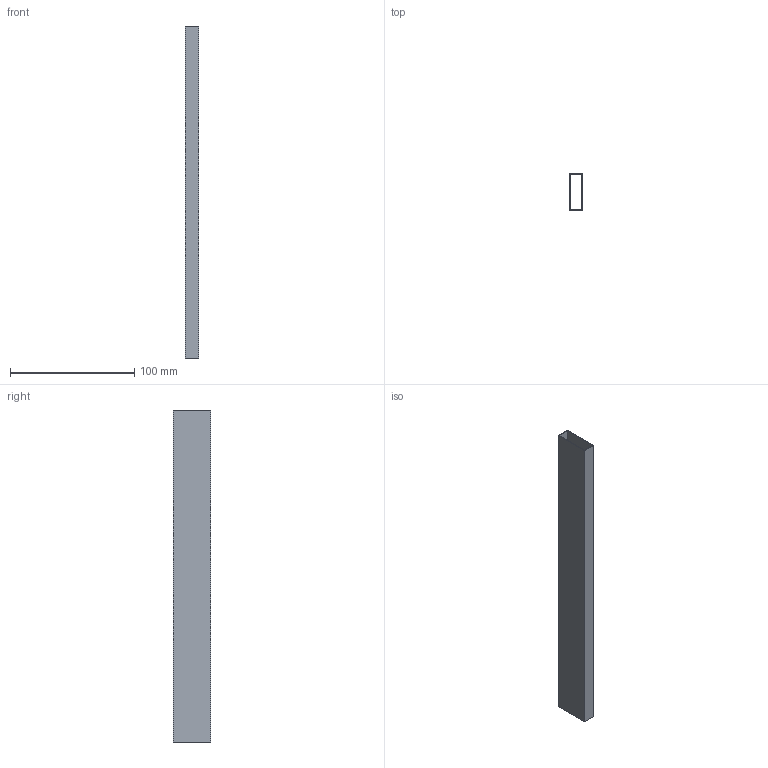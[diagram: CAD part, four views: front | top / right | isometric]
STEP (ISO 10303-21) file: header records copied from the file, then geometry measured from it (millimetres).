
FILE_DESCRIPTION (( 'STEP AP214' ), '1' );
FILE_NAME ('_DWD XP Rechteckreling NL300.step', '2010-07-14T13:27:50', ( 'grass' ), ( '' ), 'SwSTEP 2.0', 'SolidWorks 2010', '' );
FILE_SCHEMA (( 'AUTOMOTIVE_DESIGN' ));
Length unit declared in the file: millimetre
Products named in the file (1): _DWD XP Rechteckreling NL300
Bounding box: 10.5 x 30 x 267.1 mm (x, y, z)
Volume: 12596.4 mm3; surface area: 42082.4 mm2
Topology: 1 solids, 1 shells, 10 faces, 24 edges, 16 vertices
Faces by surface type: plane 10
Entity records: 326 total; most frequent: CARTESIAN_POINT 51, ORIENTED_EDGE 48, DIRECTION 46, EDGE_CURVE 24, LINE 24, VECTOR 24, VERTEX_POINT 16, EDGE_LOOP 12
